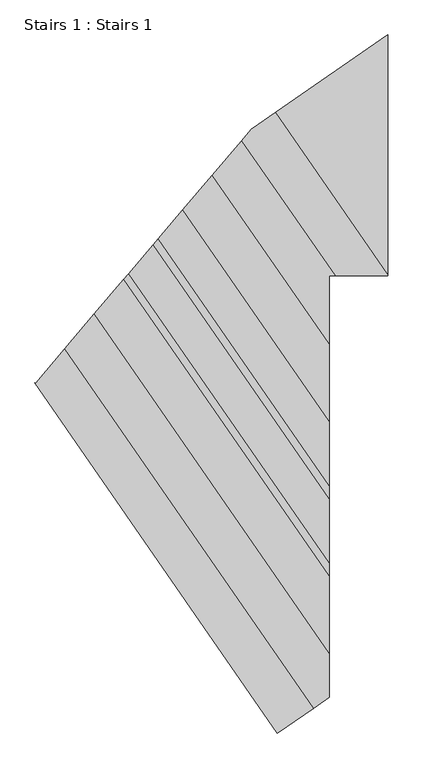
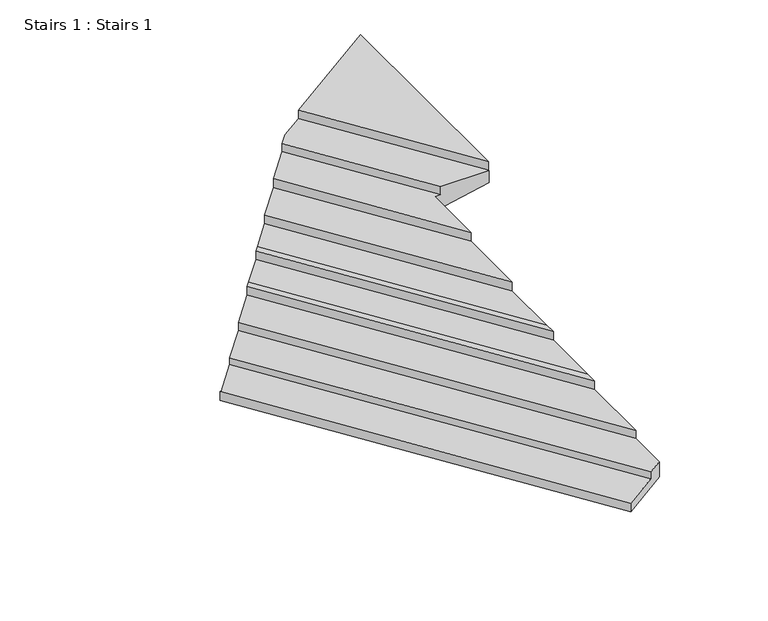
"""IFC4 building model written with IfcOpenShell, lengths in millimetres: stair geometry, Stairs 1 : Stairs 1."""

from ifc_helpers import new_model, si_unit, origin, place, context, project, spatial, faceted_brep, source, transform, mapped, element, save


def stairs_1_stairs_1_18d21c23(model_context):
    return source(origin(), model_context, "Body", "Brep", [
        faceted_brep([(-8379.4647283, 4808.3101591, -239.1381687), (-8379.4647283, 4808.3101591, -110.0), (-6849.902857, 5866.4704843, -110.0), (-6849.902857, 5866.4704843, -322.9913445), (-8061.3525991, 5028.3820897, -322.9913445), (-8713.4482055, 4577.2583321, -520.6915228), (-8713.4482055, 4577.2583321, -239.1381687), (-6849.902857, 2597.3413085, -239.1381687), (-6849.902857, 2597.3413085, -110.0), (-8843.433032, 4424.3632525, -239.1381687), (-7565.4579555, 2577.0610028, -239.1381687), (-6849.902857, 2577.0610028, -239.1381687), (-8843.433032, 4424.3632525, -360.8705997), (-7565.4579555, 2577.0610028, -360.8705997), (-9245.6877278, 3951.2098437, -360.8705997), (-7653.59105, 1649.847455, -360.8705997), (-7653.59105, 2577.0610028, -360.8705997), (-9245.6877278, 3951.2098437, -497.6323636), (-7653.59105, 1649.847455, -497.6323636), (-9647.9424237, 3478.0564349, -497.6323636), (-7653.59105, 595.2382586, -497.6323636), (-9647.9424237, 3478.0564349, -633.5780884), (-7653.59105, 595.2382586, -633.5780884), (-9983.1546703, 3083.7619276, -633.5780884), (-7653.59105, -283.6027384, -633.5780884), (-10050.1971196, 3004.9030261, -633.5780884), (-7653.59105, -459.3709378, -633.5780884), (-10050.1971196, 3004.9030261, -763.6726184), (-7653.59105, -459.3709378, -763.6726184), (-10385.4093661, 2610.6085188, -763.6726184), (-7653.59105, -1338.2119349, -763.6726184), (-10452.4518154, 2531.7496174, -763.6726184), (-7653.59105, -1513.9801343, -763.6726184), (-10452.4518154, 2531.7496174, -894.1806382), (-7653.59105, -1513.9801343, -894.1806382), (-10854.7065113, 2058.5962086, -894.1806382), (-7653.59105, -2568.5893307, -894.1806382), (-10854.7065113, 2058.5962086, -1021.2586497), (-7653.59105, -2568.5893307, -1021.2586497), (-7653.59105, -3173.0670159, -1260.0), (-8357.6299206, -3660.1254436, -1260.0), (-11667.1061314, 1123.6946498, -1260.0), (-11657.6007278, 1114.1892462, -1260.0), (-10701.393825, 2238.93076, -1260.0), (-7653.59105, -2166.6425775, -1260.0), (-6849.902857, 3277.2416526, -322.9913445), (-6849.902857, 2577.0610028, -422.3122931), (-7653.59105, 2577.0610028, -587.1034557), (-11657.6007278, 1114.1892462, -1126.1553866), (-11256.9612072, 1585.4427998, -1126.1553866), (-11256.9612072, 1585.4427998, -1021.2586497), (-7653.59105, -3173.0670159, -1021.2586497), (-7864.1988173, -3318.7667667, -1021.2586497), (-7864.1988173, -3318.7667667, -1126.1553866), (-8357.6299206, -3660.1254436, -1126.1553866), (-11667.1061314, 1123.6946498, -1126.1553866)], [[[0, 1, 2, 3, 4, 5, 6]], [[1, 0, 7, 8]], [[0, 6, 9, 10, 11, 7]], [[10, 9, 12, 13]], [[13, 12, 14, 15, 16]], [[15, 14, 17, 18]], [[18, 17, 19, 20]], [[20, 19, 21, 22]], [[22, 21, 23, 24]], [[24, 23, 25, 26]], [[26, 25, 27, 28]], [[28, 27, 29, 30]], [[30, 29, 31, 32]], [[32, 31, 33, 34]], [[34, 33, 35, 36]], [[36, 35, 37, 38]], [[39, 40, 41, 42, 43, 44]], [[5, 4, 45, 46, 47, 44, 43]], [[2, 1, 8]], [[4, 3, 45]], [[42, 48, 49, 50, 37, 35, 33, 31, 29, 27, 25, 23, 21, 19, 17, 14, 12, 9, 6, 5, 43]], [[11, 46, 45, 3, 2, 8, 7]], [[46, 11, 10, 13, 16, 47]], [[47, 16, 15, 18, 20, 22, 24, 26, 28, 30, 32, 34, 36, 38, 51, 39, 44]], [[52, 53, 54, 40, 39, 51]], [[48, 42, 41, 55]], [[52, 51, 38, 37, 50]], [[53, 52, 50, 49]], [[54, 53, 49, 48, 55]], [[40, 54, 55, 41]]]),
    ])


if __name__ == "__main__":
    model = new_model("IFC4")
    model_context = context("Model", 3, world=origin())
    ifc_project = project(units=[si_unit("LENGTHUNIT", "METRE", prefix="MILLI")], contexts=[model_context])
    site = spatial("IfcSite", under=ifc_project)
    building = spatial("IfcBuilding", under=site)
    placement = place(None, origin())
    stairs_1_stairs_1_shape = stairs_1_stairs_1_18d21c23(model_context)
    element("IfcStair", 1, ObjectType="Stairs 1 : Stairs 1", at=placement, inside=building, context=model_context, shape_type="MappedRepresentation", body=[
        mapped(stairs_1_stairs_1_shape, transform((0.0, 0.0, 0.0), x_axis=(1.0, 0.0, 0.0), y_axis=(0.0, 1.0, 0.0), z_axis=(0.0, 0.0, 1.0))),
    ])
    save(model, "model.ifc")
